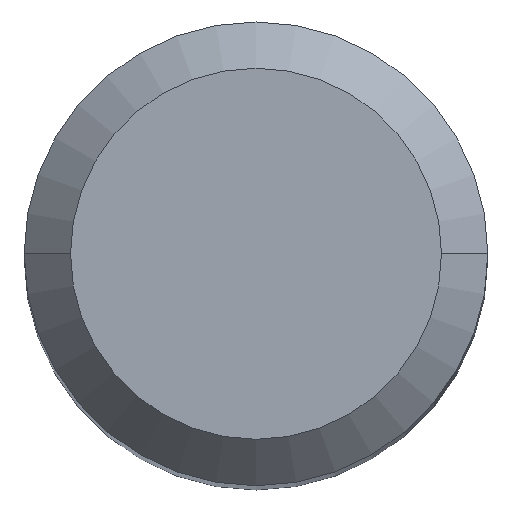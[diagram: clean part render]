
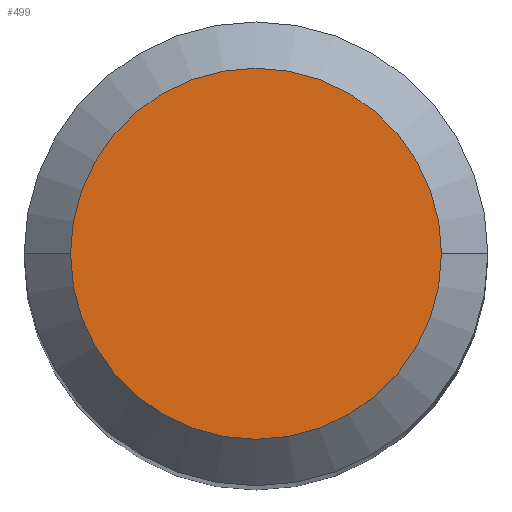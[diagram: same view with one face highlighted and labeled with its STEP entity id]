
A CAD part, top view. The second image highlights one B-rep face of the part: STEP entity #499.
In plain terms, the highlighted planar face has unit normal (0, 0, 1).
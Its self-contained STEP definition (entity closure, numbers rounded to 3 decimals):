
#9 = PLANE ( 'NONE',  #38 ) ;
#16 = AXIS2_PLACEMENT_3D ( 'NONE', #325, #512, #315 ) ;
#21 = DIRECTION ( 'NONE',  ( 0., 0., -1. ) ) ;
#38 = AXIS2_PLACEMENT_3D ( 'NONE', #205, #104, #122 ) ;
#81 = CIRCLE ( 'NONE', #436, 3.2 ) ;
#100 = CIRCLE ( 'NONE', #16, 3.2 ) ;
#104 = DIRECTION ( 'NONE',  ( 0., 0., 1. ) ) ;
#110 = CARTESIAN_POINT ( 'NONE',  ( -3.2, 0., 0. ) ) ;
#122 = DIRECTION ( 'NONE',  ( 1., 0., 0. ) ) ;
#153 = ORIENTED_EDGE ( 'NONE', *, *, #180, .F. ) ;
#180 = EDGE_CURVE ( 'NONE', #594, #496, #81, .T. ) ;
#197 = EDGE_LOOP ( 'NONE', ( #153, #490 ) ) ;
#205 = CARTESIAN_POINT ( 'NONE',  ( 0., 3.2, 0. ) ) ;
#237 = EDGE_CURVE ( 'NONE', #496, #594, #100, .T. ) ;
#315 = DIRECTION ( 'NONE',  ( -1., 0., 0. ) ) ;
#319 = CARTESIAN_POINT ( 'NONE',  ( 3.2, 0., 0. ) ) ;
#325 = CARTESIAN_POINT ( 'NONE',  ( 0., 0., 0. ) ) ;
#436 = AXIS2_PLACEMENT_3D ( 'NONE', #507, #21, #599 ) ;
#489 = FACE_OUTER_BOUND ( 'NONE', #197, .T. ) ;
#490 = ORIENTED_EDGE ( 'NONE', *, *, #237, .F. ) ;
#496 = VERTEX_POINT ( 'NONE', #319 ) ;
#499 = ADVANCED_FACE ( 'NONE', ( #489 ), #9, .T. ) ;
#507 = CARTESIAN_POINT ( 'NONE',  ( 0., 0., 0. ) ) ;
#512 = DIRECTION ( 'NONE',  ( 0., 0., -1. ) ) ;
#594 = VERTEX_POINT ( 'NONE', #110 ) ;
#599 = DIRECTION ( 'NONE',  ( -1., 0., 0. ) ) ;
